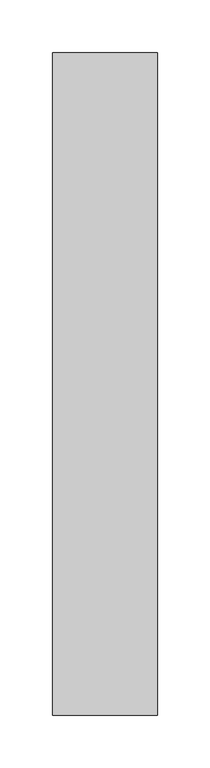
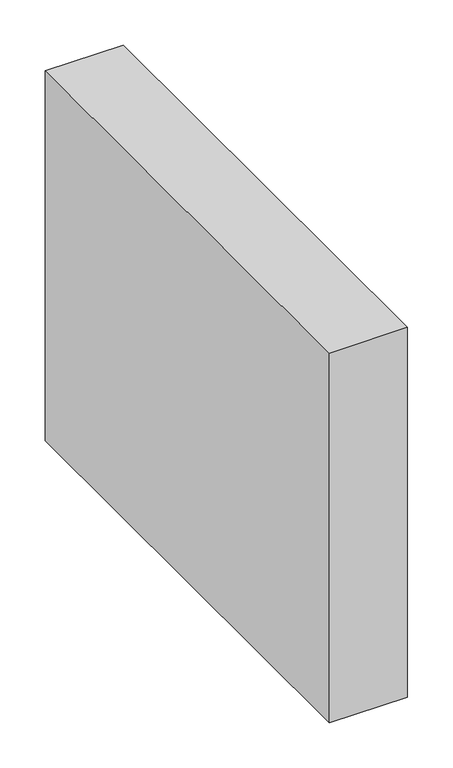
"""IFC4 building model written with IfcOpenShell, lengths in millimetres: proxy geometry, Sockel_100mm_2025-07-23."""

from ifc_helpers import new_model, si_unit, frame, origin, place, context, project, spatial, polyline, outline, extrude, source, transform, mapped, element, save


def generic_models_0eea450e(model_context):
    return source(origin(), model_context, "Body", "SweptSolid", [
        extrude(outline(polyline([(0.0, 0.0), (0.0, 630.0), (100.0, 630.0), (100.0, 0.0), (0.0, 0.0)])), frame((0.0, 0.0, -500.0), z_axis=(0.0, 0.0, 1.0), x_axis=(1.0, 0.0, 0.0)), (0.0, 0.0, 1.0), 500.0),
    ])


if __name__ == "__main__":
    model = new_model("IFC4")
    model_context = context("Model", 3, world=origin())
    ifc_project = project(units=[si_unit("LENGTHUNIT", "METRE", prefix="MILLI")], contexts=[model_context])
    site = spatial("IfcSite", under=ifc_project)
    building = spatial("IfcBuilding", under=site)
    placement = place(None, origin())
    generic_models_shape = generic_models_0eea450e(model_context)
    element("IfcBuildingElementProxy", 1, Name="Sockel_100mm_2025-07-23", ObjectType="Sockel_100mm_2025-07-23", at=placement, inside=building, context=model_context, shape_type="MappedRepresentation", body=[
        mapped(generic_models_shape, transform((0.0, 0.0, 0.0), x_axis=(1.0, 0.0, 0.0), y_axis=(0.0, 1.0, 0.0), z_axis=(0.0, 0.0, 1.0))),
    ])
    save(model, "model.ifc")
